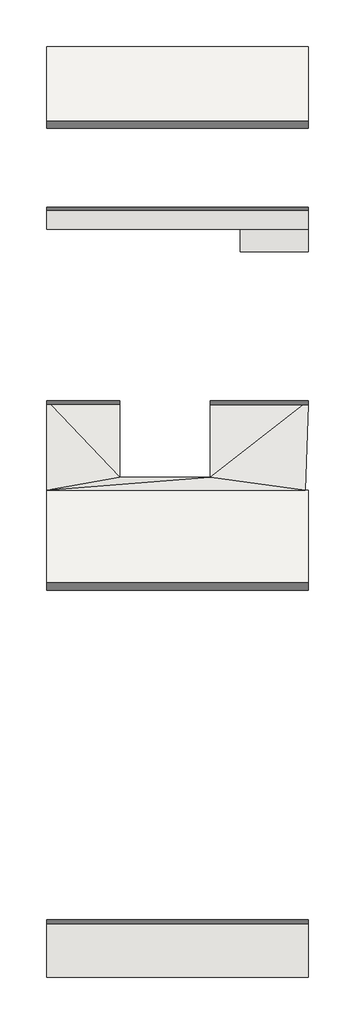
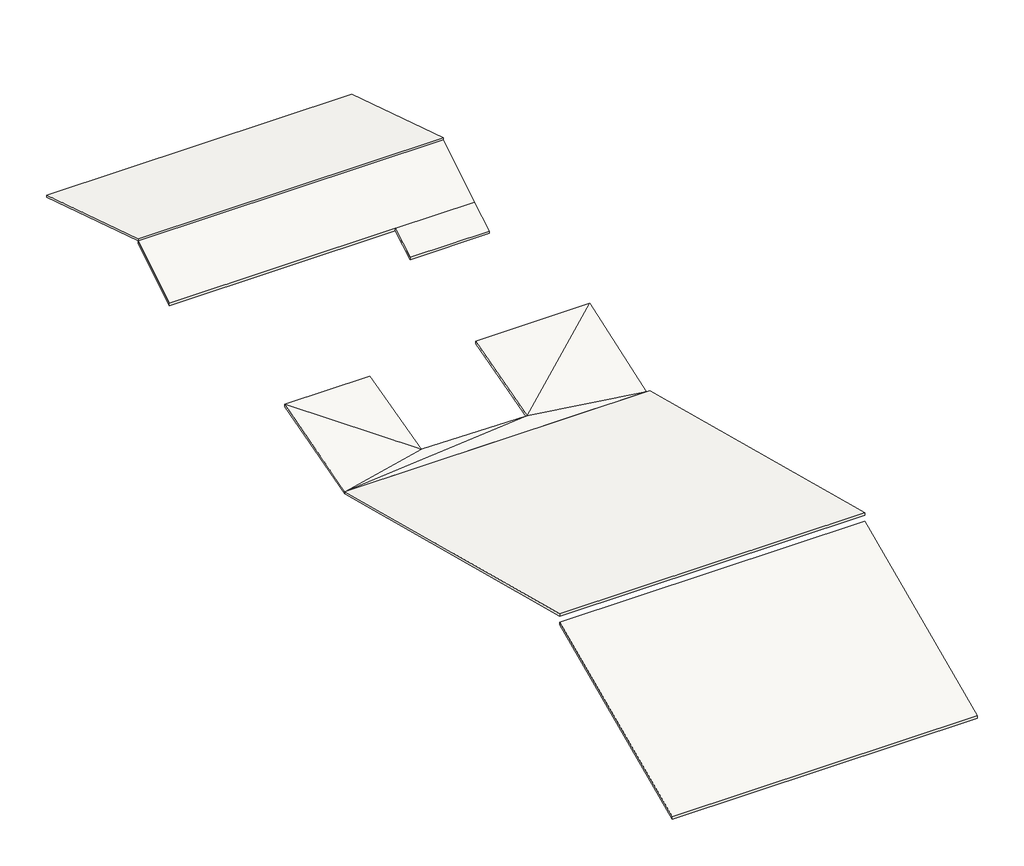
# One storey: 5 roofs.
"""IFC4 building model written with IfcOpenShell, lengths in millimetres."""

from ifc_helpers import new_model, si_unit, frame, origin, place, context, project, spatial, polyline, outline, extrude, faceted_brep, element, save

model = new_model("IFC4")

# Units and contexts
model_context = context("Model", 3, world=origin())
ifc_project = project(units=[si_unit("LENGTHUNIT", "METRE", prefix="MILLI")], contexts=[model_context])

# Site, building, storey
site = spatial("IfcSite", under=ifc_project)
building = spatial("IfcBuilding", under=site)
storey = spatial("IfcBuildingStorey", under=building, Name="Nível 2", Elevation=3000.0)

# Roofs
placement = place(None, origin())
element("IfcRoof", 1, ObjectType="Genérico - 125 mm", at=placement, inside=storey, context=model_context, shape_type="SweptSolid", body=[
    extrude(outline(polyline([(-12205.2839299, 6580.0), (-12205.2839299, 6480.0), (-19975.2839299, 3000.0), (-19975.2839299, 3100.0), (-12205.2839299, 6580.0)])), frame((-5947.7973629, 0.0, 0.0), z_axis=(1.0, 0.0, 0.0), x_axis=(0.0, 1.0, 0.0)), (0.0, 0.0, 1.0), 12130.0),
])
element("IfcRoof", 2, ObjectType="Genérico - 125 mm", at=placement, inside=storey, context=model_context, shape_type="SweptSolid", body=[
    extrude(outline(polyline([(2589.7160701, 3100.0), (2589.7160701, 3000.0), (-12205.2839299, 6830.0), (-12205.2839299, 6930.0), (2589.7160701, 3100.0)])), frame((-5947.7973629, 0.0, 0.0), z_axis=(1.0, 0.0, 0.0), x_axis=(0.0, 1.0, 0.0)), (0.0, 0.0, 1.0), 12130.0),
])
element("IfcRoof", 3, ObjectType="Genérico - 125 mm", at=placement, inside=storey, context=model_context, shape_type="Brep", body=[
    faceted_brep([(-2557.7973629, 6739.7160701, 4250.0), (-2557.7973629, 6739.7160701, 4150.0), (-5947.7973629, 6739.7160701, 4150.0), (-5947.7973629, 6739.7160701, 4250.0), (-2557.7973629, 3189.7160701, 3338.9628626), (-2557.7973629, 3189.7160701, 3238.9628626), (1642.2026371, 3189.7160701, 3266.4514424), (1642.2026371, 3189.7160701, 3166.4514424), (1642.2026371, 6739.7160701, 4250.0), (1642.2026371, 6739.7160701, 4150.0), (6182.2026371, 6739.7160701, 4250.0), (6182.2026371, 6739.7160701, 4150.0), (6032.2026371, 2589.7160701, 3100.0), (6032.2026371, 2589.7160701, 3000.0), (-5947.7973629, 2589.7160701, 3100.0), (-5947.7973629, 2589.7160701, 3000.0)], [[[0, 1, 2, 3]], [[4, 5, 1, 0]], [[6, 7, 5, 4]], [[8, 9, 7, 6]], [[10, 11, 9, 8]], [[12, 13, 11, 10]], [[14, 15, 13, 12]], [[3, 2, 15, 14]], [[3, 14, 4]], [[2, 5, 15]], [[3, 4, 0]], [[14, 12, 6]], [[2, 1, 5]], [[15, 7, 13]], [[12, 10, 6]], [[10, 8, 6]], [[13, 7, 11]], [[11, 7, 9]], [[14, 6, 4]], [[15, 5, 7]]]),
])
element("IfcRoof", 4, ObjectType="Genérico - 125 mm", at=placement, inside=storey, context=model_context, shape_type="Brep", body=[
    faceted_brep([(-5947.7973629, 16839.7160701, 5000.0), (-5947.7973629, 16839.7160701, 4900.0), (-5947.7973629, 14689.7160701, 3582.0), (-5947.7973629, 14689.7160701, 3682.0), (6182.2026371, 16839.7160701, 5000.0), (6182.2026371, 16839.7160701, 4900.0), (6182.2026371, 13649.7160701, 3100.0), (6182.2026371, 13649.7160701, 3000.0), (6182.2026371, 14689.7160701, 3582.0), (6182.2026371, 14689.7160701, 3682.0), (3032.2026371, 13649.7160701, 3100.0), (3032.2026371, 13649.7160701, 3000.0), (3032.2026371, 14689.7160701, 3682.0), (3032.2026371, 14689.7160701, 3582.0)], [[[0, 1, 2, 3]], [[4, 5, 1, 0]], [[6, 7, 8, 5, 4, 9]], [[10, 11, 7, 6]], [[12, 13, 11, 10]], [[3, 2, 13, 12]], [[3, 12, 9, 4, 0]], [[2, 1, 5, 8, 13]], [[12, 10, 6, 9]], [[13, 8, 7, 11]]]),
])
element("IfcRoof", 5, ObjectType="Genérico - 125 mm", at=placement, inside=storey, context=model_context, shape_type="SweptSolid", body=[
    extrude(outline(polyline([(23149.7160701, 3100.0), (23149.7160701, 3000.0), (16839.7160701, 5000.0), (16839.7160701, 5100.0), (23149.7160701, 3100.0)])), frame((-5947.7973629, 0.0, 0.0), z_axis=(1.0, 0.0, 0.0), x_axis=(0.0, 1.0, 0.0)), (0.0, 0.0, 1.0), 12130.0),
])

save(model, "model.ifc")
